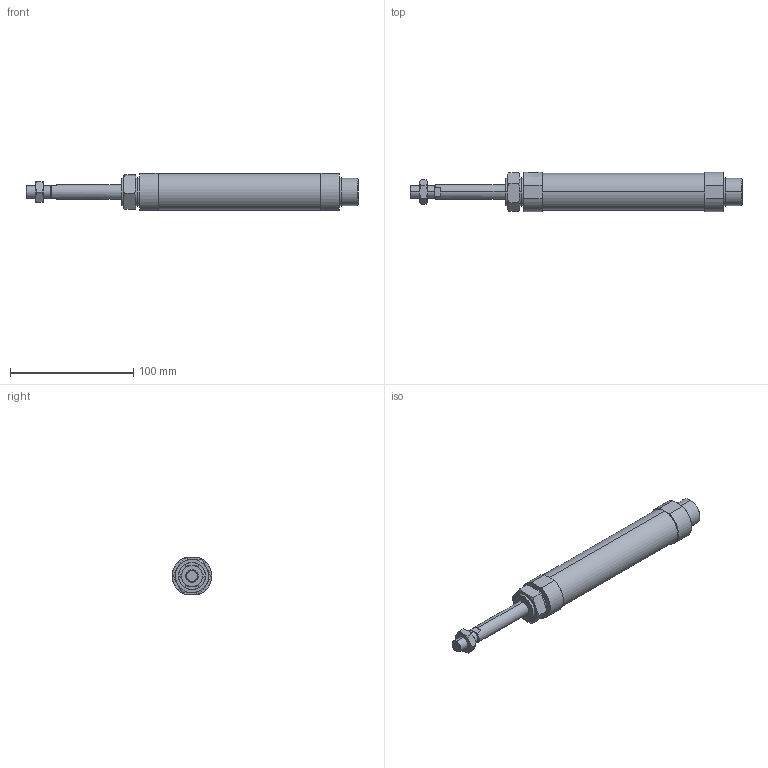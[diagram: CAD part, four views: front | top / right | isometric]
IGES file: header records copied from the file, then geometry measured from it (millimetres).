
Start section: SolidWorks IGES file using analytic representation for surfaces
Global section: file name: C:\Users\Toshiba\Desktop\J#0-25-50-N.IGS; native system: SolidWorks 2014; preprocessor: SolidWorks 2014; author: Toshiba; date: 160308.143719; units: millimetre
Bounding box: 269 x 32 x 30 mm (x, y, z)
Surface area: 25640.6 mm2 (no closed solid volume)
Topology: 0 solids, 0 shells, 93 faces, 1662 edges, 1660 vertices
Faces by surface type: bspline 61, revolution 32
